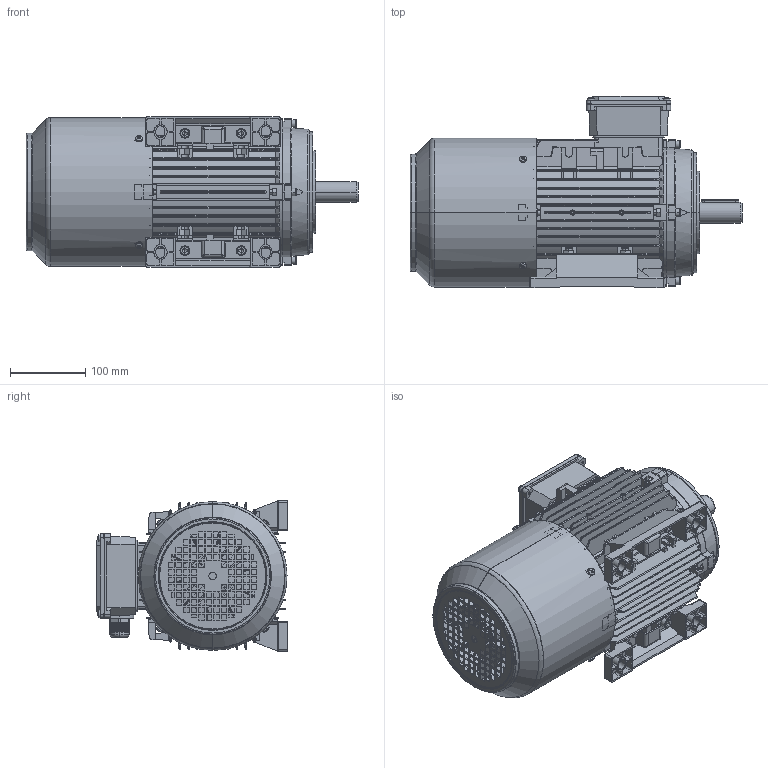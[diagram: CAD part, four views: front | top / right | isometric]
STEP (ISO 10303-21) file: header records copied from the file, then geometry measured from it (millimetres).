
FILE_DESCRIPTION (( 'STEP AP203' ), '1' );
FILE_NAME ('TB100 B34（风罩不带手柄孔）.STEP', '2021-10-25T01:28:10', ( '' ), ( '' ), 'SwSTEP 2.0', 'SolidWorks 2014', '' );
FILE_SCHEMA (( 'CONFIG_CONTROL_DESIGN' ));
Length unit declared in the file: millimetre
Products named in the file (17): Plain parallel keys_GB_CONNECTING_PIECE_KEYS_CSK 8X50; TB100风罩（不带手柄孔）; Hexagon nuts grade C GB_GB_FASTENER_NUT_SNC1 M8-N; MS132諉盄碟釱; Hexagon socket head cap screws GB_GB_FASTENER_SCREWS_HSHCS M6X30-N; TB100蛌粣; T100儂褲; 80-100堤盄蹟杶; TB100 B34（风罩不带手柄孔）; Hexagon nuts grade C GB_GB_FASTENER_NUT_SNC1 M6-N; MS132諉盄碟裔; Cross recessed thread forming screws GB_GB_CROSS_SCREWS_TYPE138 M5X12-N; 100怢宒瑞珔; T100菁褐; TA100B14楊擘1; Hexagon socket head cap screws GB_GB_FASTENER_SCREWS_HSHCS M8X25-N; TB100綴裔
Assembly tree (45 placements, depth 2):
  TB100 B34（风罩不带手柄孔）
    T100儂褲
    T100菁褐  x2
    Hexagon nuts grade C GB_GB_FASTENER_NUT_SNC1 M8-N  x4
    Hexagon nuts grade C GB_GB_FASTENER_NUT_SNC1 M6-N  x8
    Hexagon socket head cap screws GB_GB_FASTENER_SCREWS_HSHCS M8X25-N  x4
    Hexagon socket head cap screws GB_GB_FASTENER_SCREWS_HSHCS M6X30-N  x8
    Cross recessed thread forming screws GB_GB_CROSS_SCREWS_TYPE138 M5X12-N  x8
    Plain parallel keys_GB_CONNECTING_PIECE_KEYS_CSK 8X50
    80-100堤盄蹟杶  x2
    TA100B14楊擘1
    MS132諉盄碟釱
    MS132諉盄碟裔
    TB100綴裔
    TB100蛌粣
    100怢宒瑞珔
    TB100风罩（不带手柄孔）
Bounding box: 442 x 255 x 200 mm (x, y, z)
Volume: 2037939.9 mm3; surface area: 1221377.9 mm2
Topology: 45 solids, 45 shells, 5381 faces, 14320 edges, 9015 vertices
Faces by surface type: plane 3006, cylinder 1274, bspline 545, cone 322, torus 202, sphere 32
Entity records: 154063 total; most frequent: CARTESIAN_POINT 50638, ORIENTED_EDGE 22646, DIRECTION 18871, EDGE_CURVE 11323, VERTEX_POINT 7203, LINE 6361, VECTOR 6361, AXIS2_PLACEMENT_3D 6255
